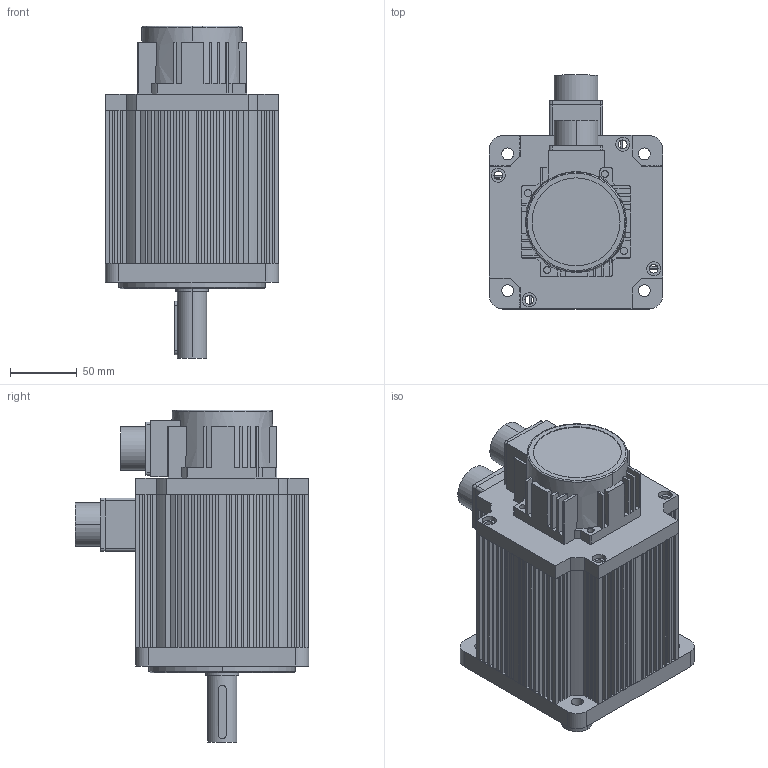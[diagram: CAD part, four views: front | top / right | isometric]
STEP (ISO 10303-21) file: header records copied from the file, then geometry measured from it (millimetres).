
FILE_DESCRIPTION (( 'STEP AP203' ), '1' );
FILE_NAME ('ASMJ-13-2025B-G322-01.STEP', '2024-04-25T00:53:57', ( 'Admin' ), ( '' ), 'SwSTEP 2.0', 'SolidWorks 2018', '' );
FILE_SCHEMA (( 'CONFIG_CONTROL_DESIGN' ));
Length unit declared in the file: millimetre
Products named in the file (1): ASMJ-13-2025B-G322-01
Bounding box: 130 x 175.3 x 249 mm (x, y, z)
Volume: 754589.8 mm3; surface area: 367624 mm2
Topology: 10 solids, 10 shells, 876 faces, 2411 edges, 1552 vertices
Faces by surface type: plane 490, cylinder 323, bspline 45, cone 18
Entity records: 29692 total; most frequent: CARTESIAN_POINT 7244, ORIENTED_EDGE 4698, DIRECTION 4599, EDGE_CURVE 2349, VERTEX_POINT 1552, LINE 1539, VECTOR 1539, AXIS2_PLACEMENT_3D 1530
